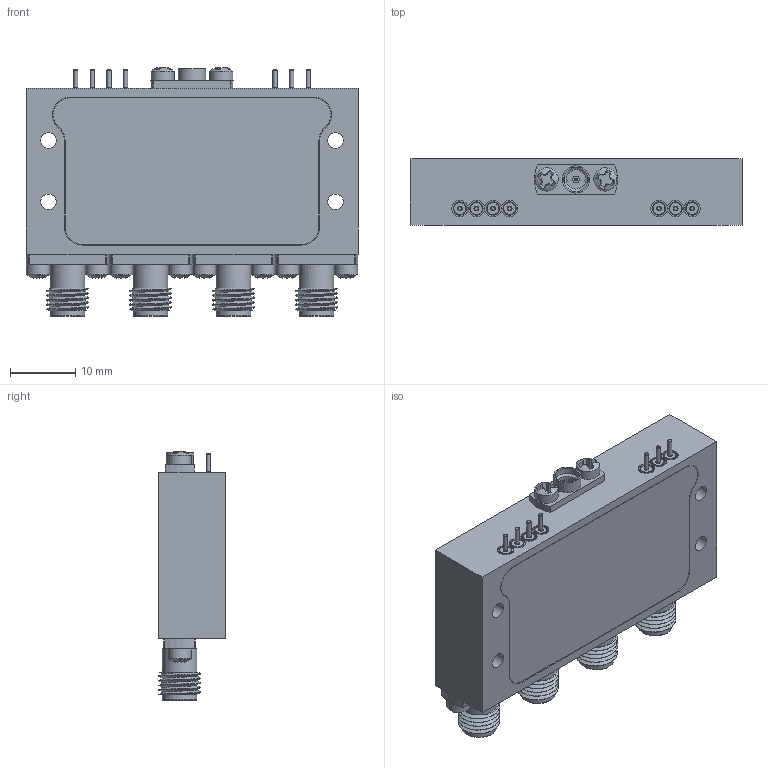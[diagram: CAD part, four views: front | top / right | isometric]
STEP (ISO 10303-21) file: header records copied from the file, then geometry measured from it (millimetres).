
FILE_DESCRIPTION (( 'STEP AP214' ), '1' );
FILE_NAME ('P4T-2G18G-60-T-512-SMPF-LV-HERM.STEP', '2026-07-21T14:51:24', ( '' ), ( '' ), 'SwSTEP 2.0', 'SolidWorks 2025', '' );
FILE_SCHEMA (( 'AUTOMOTIVE_DESIGN' ));
Length unit declared in the file: inch
Products named in the file (1): P4T-2G18G-60-T-512-SMPF-LV-HERM
Bounding box: 50.8 x 10.19 x 38.07 mm (x, y, z)
Volume: 13980.4 mm3; surface area: 13886.8 mm2
Topology: 41 solids, 41 shells, 1096 faces, 3289 edges, 2489 vertices
Faces by surface type: plane 552, cylinder 259, torus 154, cone 71, sphere 52, bspline 8
Full cylindrical faces by diameter (mm): 0.305 x14, 0.559 x4, 0.635 x14, 0.889 x5, 1.016 x5, 1.27 x4, 1.295 x7, 1.676 x5, 1.854 x10, 1.93 x12, 2.032 x12, 2.184 x20, 2.388 x4, 2.489 x5, 2.515 x7, 2.591 x8, 2.616 x2, 2.946 x1, 3.175 x1, 3.302 x4, 3.556 x10, 3.607 x1, 3.937 x1, 4.166 x1, 4.191 x8, 4.597 x4, 5.283 x8
Entity records: 56242 total; most frequent: CARTESIAN_POINT 13855, ORIENTED_EDGE 5658, DIRECTION 5637, EDGE_CURVE 2829, VERTEX_POINT 2417, AXIS2_PLACEMENT_3D 2165, EDGE_LOOP 1728, FACE_OUTER_BOUND 1421
